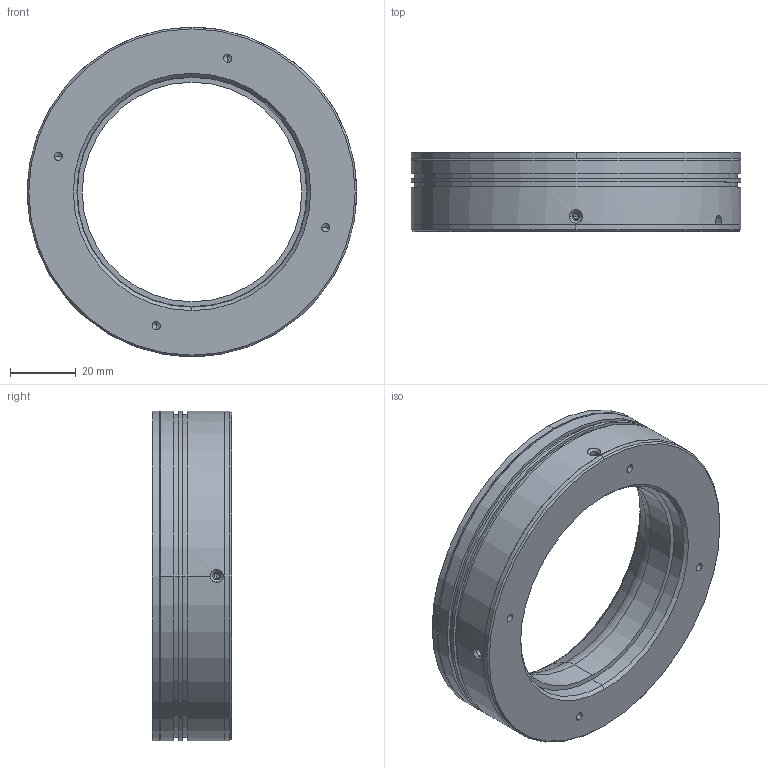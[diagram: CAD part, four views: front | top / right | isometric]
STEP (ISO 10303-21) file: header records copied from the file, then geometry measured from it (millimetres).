
FILE_DESCRIPTION (( 'STEP AP203' ), '1' );
FILE_NAME ('P-RL-100-30-DC-00.STEP', '2025-09-17T01:23:34', ( '' ), ( '' ), 'SwSTEP 2.0', 'SolidWorks 2022', '' );
FILE_SCHEMA (( 'CONFIG_CONTROL_DESIGN' ));
Length unit declared in the file: millimetre
Products named in the file (4): P-RL-100-30-DC-001; P-RL-100-30-DC-00; DFP-RL-100-30-DC; P-RL-100-30-DC-002
Assembly tree (3 placements, depth 2):
  P-RL-100-30-DC-00
    P-RL-100-30-DC-001
    P-RL-100-30-DC-002
    DFP-RL-100-30-DC
Bounding box: 100 x 24 x 100 mm (x, y, z)
Volume: 60003.3 mm3; surface area: 47278.4 mm2
Topology: 3 solids, 3 shells, 165 faces, 402 edges, 234 vertices
Faces by surface type: cylinder 74, cone 64, plane 19, torus 8
Entity records: 5613 total; most frequent: CARTESIAN_POINT 1361, DIRECTION 861, ORIENTED_EDGE 756, EDGE_CURVE 378, AXIS2_PLACEMENT_3D 356, VERTEX_POINT 234, EDGE_LOOP 202, CIRCLE 185
